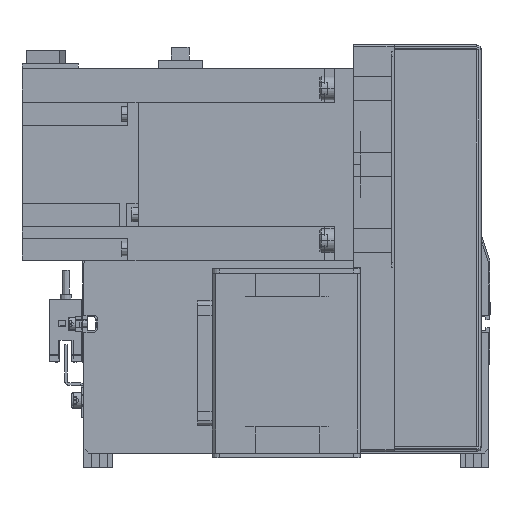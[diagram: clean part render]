
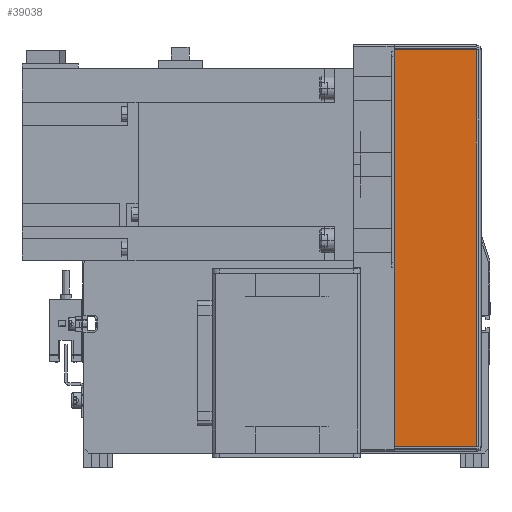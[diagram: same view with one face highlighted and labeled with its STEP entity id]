
A CAD part, front view. The second image highlights one B-rep face of the part: STEP entity #39038.
In plain terms, the highlighted planar face has unit normal (0, -1, 0) as drawn and (0, 1, 0) by its records, which use the part's own axes.
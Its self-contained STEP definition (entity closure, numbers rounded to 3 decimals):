
#3965 = CARTESIAN_POINT ( 'NONE',  ( 97.724, 39.222, 213.5 ) ) ;
#4392 = VERTEX_POINT ( 'NONE', #6835 ) ;
#4871 = DIRECTION ( 'NONE',  ( 0., 0., -1. ) ) ;
#4914 = CARTESIAN_POINT ( 'NONE',  ( 14.931, 39.222, 177. ) ) ;
#4958 = CARTESIAN_POINT ( 'NONE',  ( 97.724, 39.222, 177. ) ) ;
#6808 = ORIENTED_EDGE ( 'NONE', *, *, #25573, .T. ) ;
#6835 = CARTESIAN_POINT ( 'NONE',  ( -67.862, 39.222, 211.263 ) ) ;
#6878 = CARTESIAN_POINT ( 'NONE',  ( -70.069, 39.222, 211.263 ) ) ;
#8533 = LINE ( 'NONE', #3965, #34675 ) ;
#9103 = VERTEX_POINT ( 'NONE', #32295 ) ;
#15924 = EDGE_CURVE ( 'NONE', #9103, #43939, #8533, .T. ) ;
#17264 = ORIENTED_EDGE ( 'NONE', *, *, #31204, .F. ) ;
#17479 = CARTESIAN_POINT ( 'NONE',  ( 14.931, 39.222, 213.5 ) ) ;
#18632 = EDGE_CURVE ( 'NONE', #9103, #4392, #31234, .T. ) ;
#19688 = CARTESIAN_POINT ( 'NONE',  ( -67.862, 39.222, 177. ) ) ;
#21244 = LINE ( 'NONE', #35445, #33999 ) ;
#21698 = EDGE_LOOP ( 'NONE', ( #17264, #30847, #39086, #6808 ) ) ;
#23608 = VERTEX_POINT ( 'NONE', #19688 ) ;
#23851 = FACE_OUTER_BOUND ( 'NONE', #21698, .T. ) ;
#24353 = PLANE ( 'NONE',  #32799 ) ;
#24431 = DIRECTION ( 'NONE',  ( 0., 0., -1. ) ) ;
#25573 = EDGE_CURVE ( 'NONE', #43939, #23608, #38733, .T. ) ;
#30847 = ORIENTED_EDGE ( 'NONE', *, *, #18632, .F. ) ;
#31204 = EDGE_CURVE ( 'NONE', #4392, #23608, #21244, .T. ) ;
#31234 = LINE ( 'NONE', #6878, #39198 ) ;
#32295 = CARTESIAN_POINT ( 'NONE',  ( 97.724, 39.222, 211.263 ) ) ;
#32799 = AXIS2_PLACEMENT_3D ( 'NONE', #17479, #37745, #37601 ) ;
#33999 = VECTOR ( 'NONE', #4871, 1000. ) ;
#34174 = DIRECTION ( 'NONE',  ( -1., 0., 0. ) ) ;
#34675 = VECTOR ( 'NONE', #24431, 1000. ) ;
#35445 = CARTESIAN_POINT ( 'NONE',  ( -67.862, 39.222, 212. ) ) ;
#36212 = DIRECTION ( 'NONE',  ( -1., 0., 0. ) ) ;
#37148 = VECTOR ( 'NONE', #36212, 1000. ) ;
#37601 = DIRECTION ( 'NONE',  ( 0., 0., -1. ) ) ;
#37745 = DIRECTION ( 'NONE',  ( 0., -1., 0. ) ) ;
#38733 = LINE ( 'NONE', #4914, #37148 ) ;
#39038 = ADVANCED_FACE ( 'NONE', ( #23851 ), #24353, .F. ) ;
#39086 = ORIENTED_EDGE ( 'NONE', *, *, #15924, .T. ) ;
#39198 = VECTOR ( 'NONE', #34174, 1000. ) ;
#43939 = VERTEX_POINT ( 'NONE', #4958 ) ;
